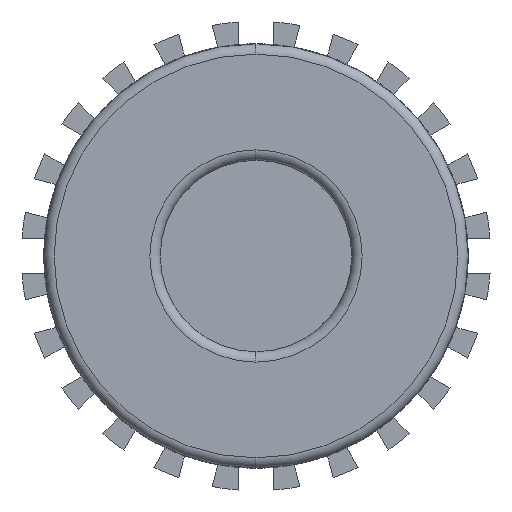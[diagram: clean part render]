
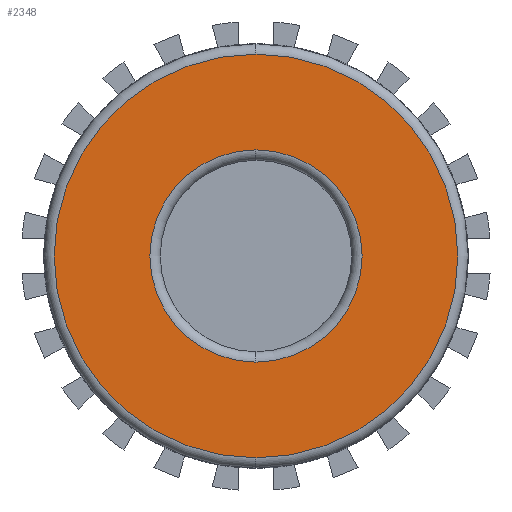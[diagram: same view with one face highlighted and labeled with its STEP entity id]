
A CAD part, left-side view. The second image highlights one B-rep face of the part: STEP entity #2348.
In plain terms, the highlighted planar face has unit normal (-1, 0, 0).
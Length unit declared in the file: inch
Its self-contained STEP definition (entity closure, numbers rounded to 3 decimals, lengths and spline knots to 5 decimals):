
#66 = FACE_BOUND ( 'NONE', #3915, .T. ) ;
#70 = FACE_OUTER_BOUND ( 'NONE', #3920, .T. ) ;
#282 = CARTESIAN_POINT ( 'NONE',  ( -2.15, 0., 0. ) ) ;
#298 = DIRECTION ( 'NONE',  ( 0., 0., -1. ) ) ;
#346 = DIRECTION ( 'NONE',  ( 1., 0., 0. ) ) ;
#370 = DIRECTION ( 'NONE',  ( -1., 0., 0. ) ) ;
#372 = DIRECTION ( 'NONE',  ( 0., 0., -1. ) ) ;
#386 = CARTESIAN_POINT ( 'NONE',  ( -2.15, 0., 0. ) ) ;
#567 = CARTESIAN_POINT ( 'NONE',  ( -2.15, 0., 0. ) ) ;
#662 = DIRECTION ( 'NONE',  ( -1., 0., 0. ) ) ;
#685 = DIRECTION ( 'NONE',  ( 0., 0., -1. ) ) ;
#948 = DIRECTION ( 'NONE',  ( 0., 0., -1. ) ) ;
#1039 = DIRECTION ( 'NONE',  ( 1., 0., 0. ) ) ;
#1041 = CARTESIAN_POINT ( 'NONE',  ( -2.15, 0., 0. ) ) ;
#1110 = CIRCLE ( 'NONE', #2287, 0.3075 ) ;
#1141 = CIRCLE ( 'NONE', #2279, 0.585 ) ;
#1369 = ORIENTED_EDGE ( 'NONE', *, *, #2154, .T. ) ;
#1594 = ORIENTED_EDGE ( 'NONE', *, *, #2088, .T. ) ;
#1598 = ORIENTED_EDGE ( 'NONE', *, *, #2075, .T. ) ;
#1758 = ORIENTED_EDGE ( 'NONE', *, *, #2155, .T. ) ;
#1952 = CIRCLE ( 'NONE', #3326, 0.3075 ) ;
#1987 = CIRCLE ( 'NONE', #3325, 0.585 ) ;
#2075 = EDGE_CURVE ( 'NONE', #2432, #2428, #1141, .T. ) ;
#2088 = EDGE_CURVE ( 'NONE', #2493, #2447, #1110, .T. ) ;
#2154 = EDGE_CURVE ( 'NONE', #2428, #2432, #1987, .T. ) ;
#2155 = EDGE_CURVE ( 'NONE', #2447, #2493, #1952, .T. ) ;
#2279 = AXIS2_PLACEMENT_3D ( 'NONE', #567, #662, #685 ) ;
#2287 = AXIS2_PLACEMENT_3D ( 'NONE', #1041, #1039, #948 ) ;
#2348 = ADVANCED_FACE ( 'NONE', ( #66, #70 ), #2600, .F. ) ;
#2428 = VERTEX_POINT ( 'NONE', #2728 ) ;
#2432 = VERTEX_POINT ( 'NONE', #2731 ) ;
#2447 = VERTEX_POINT ( 'NONE', #2746 ) ;
#2493 = VERTEX_POINT ( 'NONE', #2776 ) ;
#2595 = DIRECTION ( 'NONE',  ( 1., 0., 0. ) ) ;
#2598 = CARTESIAN_POINT ( 'NONE',  ( -2.15, 0., 0. ) ) ;
#2600 = PLANE ( 'NONE',  #3395 ) ;
#2602 = DIRECTION ( 'NONE',  ( 0., 0., -1. ) ) ;
#2728 = CARTESIAN_POINT ( 'NONE',  ( -2.15, 0., -0.585 ) ) ;
#2731 = CARTESIAN_POINT ( 'NONE',  ( -2.15, 0., 0.585 ) ) ;
#2746 = CARTESIAN_POINT ( 'NONE',  ( -2.15, 0., 0.3075 ) ) ;
#2776 = CARTESIAN_POINT ( 'NONE',  ( -2.15, 0., -0.3075 ) ) ;
#3325 = AXIS2_PLACEMENT_3D ( 'NONE', #282, #370, #298 ) ;
#3326 = AXIS2_PLACEMENT_3D ( 'NONE', #386, #346, #372 ) ;
#3395 = AXIS2_PLACEMENT_3D ( 'NONE', #2598, #2595, #2602 ) ;
#3915 = EDGE_LOOP ( 'NONE', ( #1594, #1758 ) ) ;
#3920 = EDGE_LOOP ( 'NONE', ( #1369, #1598 ) ) ;
